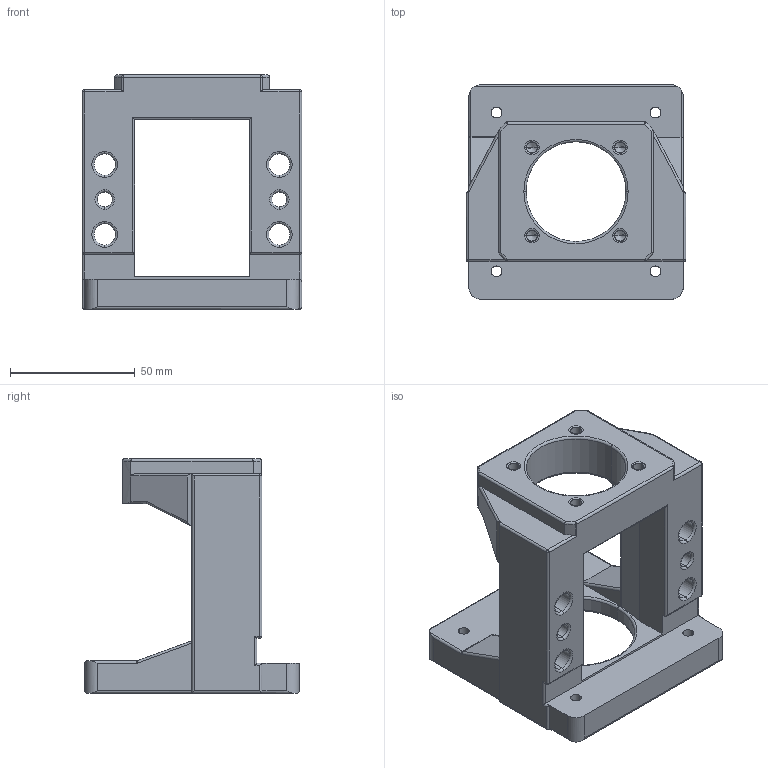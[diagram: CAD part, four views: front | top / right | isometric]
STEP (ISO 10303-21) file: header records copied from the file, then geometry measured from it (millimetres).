
FILE_DESCRIPTION (( 'STEP AP203' ), '1' );
FILE_NAME ('M80EP-FK15-A.STEP', '2020-11-20T03:40:41', ( 'Windows 蚚誧' ), ( 'Organization' ), 'SwSTEP 2.0', 'SolidWorks 2016', '' );
FILE_SCHEMA (( 'CONFIG_CONTROL_DESIGN' ));
Length unit declared in the file: millimetre
Products named in the file (1): M80EP-FK15-A
Bounding box: 88 x 86 x 94 mm (x, y, z)
Volume: 178403 mm3; surface area: 45657.3 mm2
Topology: 1 solids, 1 shells, 229 faces, 576 edges, 342 vertices
Faces by surface type: cylinder 112, plane 49, torus 35, cone 24, sphere 8, bspline 1
Entity records: 7058 total; most frequent: CARTESIAN_POINT 1574, DIRECTION 1172, ORIENTED_EDGE 1120, EDGE_CURVE 560, AXIS2_PLACEMENT_3D 460, VERTEX_POINT 342, EDGE_LOOP 264, VECTOR 252
